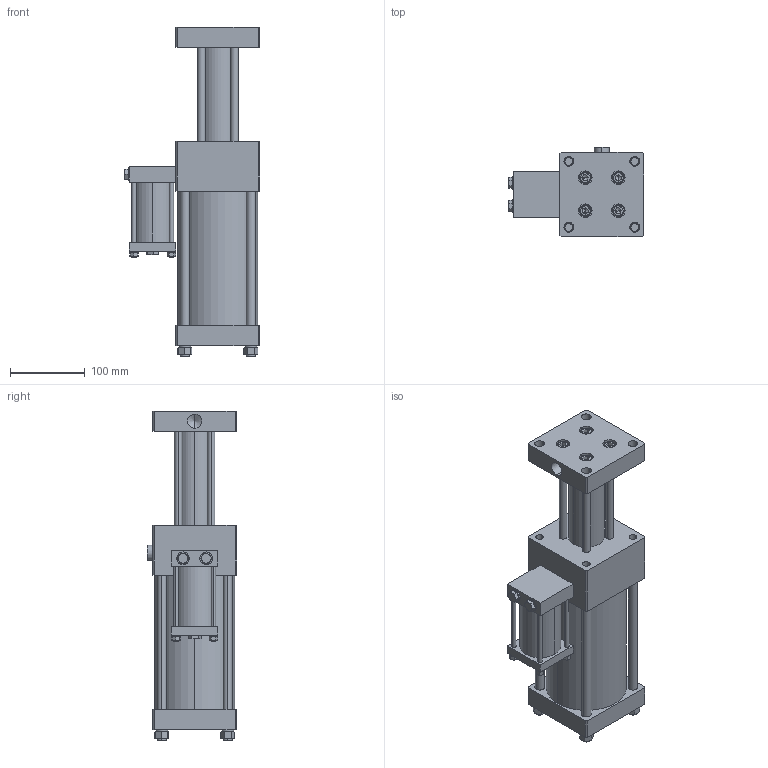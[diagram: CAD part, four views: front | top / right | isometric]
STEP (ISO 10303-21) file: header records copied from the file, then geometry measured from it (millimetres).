
FILE_DESCRIPTION (( 'STEP AP203' ), '1' );
FILE_NAME ('1320 064 050.STEP', '2016-02-22T09:09:36', ( 'Admin' ), ( '' ), 'SwSTEP 2.0', 'SolidWorks 2015', '' );
FILE_SCHEMA (( 'CONFIG_CONTROL_DESIGN' ));
Length unit declared in the file: millimetre
Products named in the file (10): spring lock washer 6735_is_IS 6735- 10; hexagon nut_is1_IS 1363-2 - M10-N; hhb(grade a)_is_IS 1364 HHB(Grade A) - M8 x 40 x 22-N_1; plain washer (type a)_is_IS 2016 A- 9_1; spring lock washer 6735_is1_IS 6735- 10_1; socket head cap screw_is_IS 2269 - M10 x 16-N_1; 1320_1320 064 050; 1320 064 050; spring lock washer 6735_is_IS 6735- 6; hexagon nut_is1_IS 1363-2 - M6-N
Assembly tree (29 placements, depth 2):
  1320 064 050
    1320_1320 064 050
    spring lock washer 6735_is_IS 6735- 6  x4
    hexagon nut_is1_IS 1363-2 - M6-N  x4
    spring lock washer 6735_is_IS 6735- 10  x4
    hexagon nut_is1_IS 1363-2 - M10-N  x4
    hhb(grade a)_is_IS 1364 HHB(Grade A) - M8 x 40 x 22-N_1  x2
    plain washer (type a)_is_IS 2016 A- 9_1  x2
    spring lock washer 6735_is1_IS 6735- 10_1  x4
    socket head cap screw_is_IS 2269 - M10 x 16-N_1  x4
Bounding box: 180.9 x 119 x 440 mm (x, y, z)
Volume: 3875191.5 mm3; surface area: 340967.5 mm2
Topology: 34 solids, 34 shells, 739 faces, 1710 edges, 1065 vertices
Faces by surface type: plane 285, cylinder 220, cone 182, bspline 44, torus 8
Entity records: 12405 total; most frequent: CARTESIAN_POINT 2412, DIRECTION 1842, ORIENTED_EDGE 1656, EDGE_CURVE 828, AXIS2_PLACEMENT_3D 733, VERTEX_POINT 533, EDGE_LOOP 443, VECTOR 376
